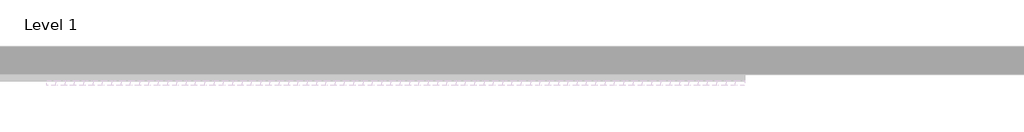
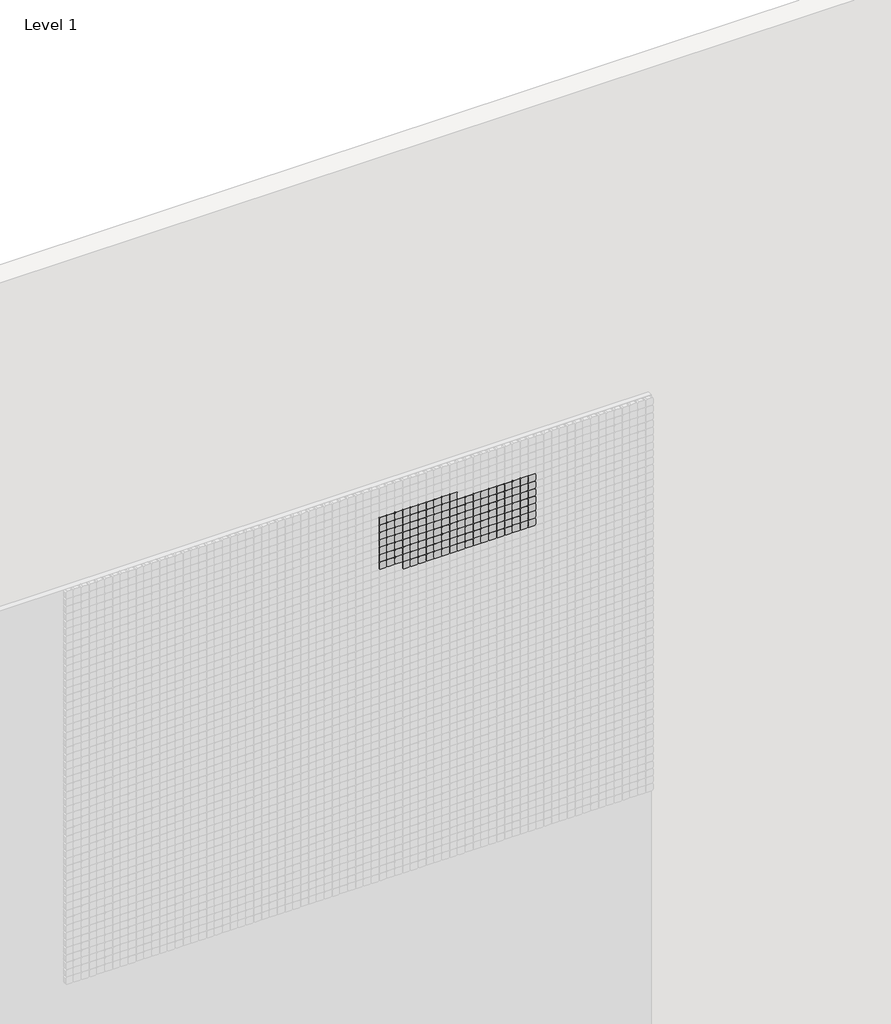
# One storey, part 49 of 71: 147 proxies.
"""IFC4 building model written with IfcOpenShell, lengths in millimetres."""

from ifc_helpers import new_model, si_unit, origin, place, context, project, spatial, transform, mapped, element, save
from components import generic_models_afde289c

model = new_model("IFC4")

# Units and contexts
model_context = context("Model", 3, world=origin())
ifc_project = project(units=[si_unit("LENGTHUNIT", "METRE", prefix="MILLI")], contexts=[model_context])

# Site, building, storey
site = spatial("IfcSite", under=ifc_project)
building = spatial("IfcBuilding", under=site)
storey = spatial("IfcBuildingStorey", under=building, Name="Level 1", Elevation=0.0)

# Proxies
placement = place(None, origin())
generic_models_shape = generic_models_afde289c(model_context)
element("IfcBuildingElementProxy", 1, Name="Pixel_M : Pixel_M", ObjectType="Pixel_M : Pixel_M", at=placement, inside=storey, context=model_context, shape_type="MappedRepresentation", body=[
    mapped(generic_models_shape, transform((8462.4280941, -75.0, 5766.3566215), x_axis=(1.0, 0.0, 0.0), y_axis=(0.0, 0.0, 1.0), z_axis=(0.0, -1.0, 0.0))),
])
element("IfcBuildingElementProxy", 2, Name="Pixel_M : Pixel_M", ObjectType="Pixel_M : Pixel_M", at=placement, inside=storey, context=model_context, shape_type="MappedRepresentation", body=[
    mapped(generic_models_shape, transform((8412.4280941, -75.0, 5766.3566215), x_axis=(1.0, 0.0, 0.0), y_axis=(0.0, 0.0, 1.0), z_axis=(0.0, -1.0, 0.0))),
])
element("IfcBuildingElementProxy", 3, Name="Pixel_M : Pixel_M", ObjectType="Pixel_M : Pixel_M", at=placement, inside=storey, context=model_context, shape_type="MappedRepresentation", body=[
    mapped(generic_models_shape, transform((8362.4280941, -75.0, 5766.3566215), x_axis=(1.0, 0.0, 0.0), y_axis=(0.0, 0.0, 1.0), z_axis=(0.0, -1.0, 0.0))),
])
element("IfcBuildingElementProxy", 4, Name="Pixel_M : Pixel_M", ObjectType="Pixel_M : Pixel_M", at=placement, inside=storey, context=model_context, shape_type="MappedRepresentation", body=[
    mapped(generic_models_shape, transform((8312.4280941, -75.0, 5766.3566215), x_axis=(1.0, 0.0, 0.0), y_axis=(0.0, 0.0, 1.0), z_axis=(0.0, -1.0, 0.0))),
])
element("IfcBuildingElementProxy", 5, Name="Pixel_M : Pixel_M", ObjectType="Pixel_M : Pixel_M", at=placement, inside=storey, context=model_context, shape_type="MappedRepresentation", body=[
    mapped(generic_models_shape, transform((8262.4280941, -75.0, 5766.3566215), x_axis=(1.0, 0.0, 0.0), y_axis=(0.0, 0.0, 1.0), z_axis=(0.0, -1.0, 0.0))),
])
element("IfcBuildingElementProxy", 6, Name="Pixel_M : Pixel_M", ObjectType="Pixel_M : Pixel_M", at=placement, inside=storey, context=model_context, shape_type="MappedRepresentation", body=[
    mapped(generic_models_shape, transform((8212.4280941, -75.0, 5766.3566215), x_axis=(1.0, 0.0, 0.0), y_axis=(0.0, 0.0, 1.0), z_axis=(0.0, -1.0, 0.0))),
])
element("IfcBuildingElementProxy", 7, Name="Pixel_M : Pixel_M", ObjectType="Pixel_M : Pixel_M", at=placement, inside=storey, context=model_context, shape_type="MappedRepresentation", body=[
    mapped(generic_models_shape, transform((8162.4280941, -75.0, 5766.3566215), x_axis=(1.0, 0.0, 0.0), y_axis=(0.0, 0.0, 1.0), z_axis=(0.0, -1.0, 0.0))),
])
element("IfcBuildingElementProxy", 8, Name="Pixel_M : Pixel_M", ObjectType="Pixel_M : Pixel_M", at=placement, inside=storey, context=model_context, shape_type="MappedRepresentation", body=[
    mapped(generic_models_shape, transform((8112.4280941, -75.0, 5766.3566215), x_axis=(1.0, 0.0, 0.0), y_axis=(0.0, 0.0, 1.0), z_axis=(0.0, -1.0, 0.0))),
])
element("IfcBuildingElementProxy", 9, Name="Pixel_M : Pixel_M", ObjectType="Pixel_M : Pixel_M", at=placement, inside=storey, context=model_context, shape_type="MappedRepresentation", body=[
    mapped(generic_models_shape, transform((8062.4280941, -75.0, 5766.3566215), x_axis=(1.0, 0.0, 0.0), y_axis=(0.0, 0.0, 1.0), z_axis=(0.0, -1.0, 0.0))),
])
element("IfcBuildingElementProxy", 10, Name="Pixel_M : Pixel_M", ObjectType="Pixel_M : Pixel_M", at=placement, inside=storey, context=model_context, shape_type="MappedRepresentation", body=[
    mapped(generic_models_shape, transform((8012.4280941, -75.0, 5766.3566215), x_axis=(1.0, 0.0, 0.0), y_axis=(0.0, 0.0, 1.0), z_axis=(0.0, -1.0, 0.0))),
])
element("IfcBuildingElementProxy", 11, Name="Pixel_M : Pixel_M", ObjectType="Pixel_M : Pixel_M", at=placement, inside=storey, context=model_context, shape_type="MappedRepresentation", body=[
    mapped(generic_models_shape, transform((8962.4280941, -75.0, 5716.3566215), x_axis=(1.0, 0.0, 0.0), y_axis=(0.0, 0.0, 1.0), z_axis=(0.0, -1.0, 0.0))),
])
element("IfcBuildingElementProxy", 12, Name="Pixel_M : Pixel_M", ObjectType="Pixel_M : Pixel_M", at=placement, inside=storey, context=model_context, shape_type="MappedRepresentation", body=[
    mapped(generic_models_shape, transform((8912.4280941, -75.0, 5716.3566215), x_axis=(1.0, 0.0, 0.0), y_axis=(0.0, 0.0, 1.0), z_axis=(0.0, -1.0, 0.0))),
])
element("IfcBuildingElementProxy", 13, Name="Pixel_M : Pixel_M", ObjectType="Pixel_M : Pixel_M", at=placement, inside=storey, context=model_context, shape_type="MappedRepresentation", body=[
    mapped(generic_models_shape, transform((8862.4280941, -75.0, 5716.3566215), x_axis=(1.0, 0.0, 0.0), y_axis=(0.0, 0.0, 1.0), z_axis=(0.0, -1.0, 0.0))),
])
element("IfcBuildingElementProxy", 14, Name="Pixel_M : Pixel_M", ObjectType="Pixel_M : Pixel_M", at=placement, inside=storey, context=model_context, shape_type="MappedRepresentation", body=[
    mapped(generic_models_shape, transform((8812.4280941, -75.0, 5716.3566215), x_axis=(1.0, 0.0, 0.0), y_axis=(0.0, 0.0, 1.0), z_axis=(0.0, -1.0, 0.0))),
])
element("IfcBuildingElementProxy", 15, Name="Pixel_M : Pixel_M", ObjectType="Pixel_M : Pixel_M", at=placement, inside=storey, context=model_context, shape_type="MappedRepresentation", body=[
    mapped(generic_models_shape, transform((8762.4280941, -75.0, 5716.3566215), x_axis=(1.0, 0.0, 0.0), y_axis=(0.0, 0.0, 1.0), z_axis=(0.0, -1.0, 0.0))),
])
element("IfcBuildingElementProxy", 16, Name="Pixel_M : Pixel_M", ObjectType="Pixel_M : Pixel_M", at=placement, inside=storey, context=model_context, shape_type="MappedRepresentation", body=[
    mapped(generic_models_shape, transform((8712.4280941, -75.0, 5716.3566215), x_axis=(1.0, 0.0, 0.0), y_axis=(0.0, 0.0, 1.0), z_axis=(0.0, -1.0, 0.0))),
])
element("IfcBuildingElementProxy", 17, Name="Pixel_M : Pixel_M", ObjectType="Pixel_M : Pixel_M", at=placement, inside=storey, context=model_context, shape_type="MappedRepresentation", body=[
    mapped(generic_models_shape, transform((8662.4280941, -75.0, 5716.3566215), x_axis=(1.0, 0.0, 0.0), y_axis=(0.0, 0.0, 1.0), z_axis=(0.0, -1.0, 0.0))),
])
element("IfcBuildingElementProxy", 18, Name="Pixel_M : Pixel_M", ObjectType="Pixel_M : Pixel_M", at=placement, inside=storey, context=model_context, shape_type="MappedRepresentation", body=[
    mapped(generic_models_shape, transform((8612.4280941, -75.0, 5716.3566215), x_axis=(1.0, 0.0, 0.0), y_axis=(0.0, 0.0, 1.0), z_axis=(0.0, -1.0, 0.0))),
])
element("IfcBuildingElementProxy", 19, Name="Pixel_M : Pixel_M", ObjectType="Pixel_M : Pixel_M", at=placement, inside=storey, context=model_context, shape_type="MappedRepresentation", body=[
    mapped(generic_models_shape, transform((8562.4280941, -75.0, 5716.3566215), x_axis=(1.0, 0.0, 0.0), y_axis=(0.0, 0.0, 1.0), z_axis=(0.0, -1.0, 0.0))),
])
element("IfcBuildingElementProxy", 20, Name="Pixel_M : Pixel_M", ObjectType="Pixel_M : Pixel_M", at=placement, inside=storey, context=model_context, shape_type="MappedRepresentation", body=[
    mapped(generic_models_shape, transform((8512.4280941, -75.0, 5716.3566215), x_axis=(1.0, 0.0, 0.0), y_axis=(0.0, 0.0, 1.0), z_axis=(0.0, -1.0, 0.0))),
])
element("IfcBuildingElementProxy", 21, Name="Pixel_M : Pixel_M", ObjectType="Pixel_M : Pixel_M", at=placement, inside=storey, context=model_context, shape_type="MappedRepresentation", body=[
    mapped(generic_models_shape, transform((8462.4280941, -75.0, 5716.3566215), x_axis=(1.0, 0.0, 0.0), y_axis=(0.0, 0.0, 1.0), z_axis=(0.0, -1.0, 0.0))),
])
element("IfcBuildingElementProxy", 22, Name="Pixel_M : Pixel_M", ObjectType="Pixel_M : Pixel_M", at=placement, inside=storey, context=model_context, shape_type="MappedRepresentation", body=[
    mapped(generic_models_shape, transform((8412.4280941, -75.0, 5716.3566215), x_axis=(1.0, 0.0, 0.0), y_axis=(0.0, 0.0, 1.0), z_axis=(0.0, -1.0, 0.0))),
])
element("IfcBuildingElementProxy", 23, Name="Pixel_M : Pixel_M", ObjectType="Pixel_M : Pixel_M", at=placement, inside=storey, context=model_context, shape_type="MappedRepresentation", body=[
    mapped(generic_models_shape, transform((8362.4280941, -75.0, 5716.3566215), x_axis=(1.0, 0.0, 0.0), y_axis=(0.0, 0.0, 1.0), z_axis=(0.0, -1.0, 0.0))),
])
element("IfcBuildingElementProxy", 24, Name="Pixel_M : Pixel_M", ObjectType="Pixel_M : Pixel_M", at=placement, inside=storey, context=model_context, shape_type="MappedRepresentation", body=[
    mapped(generic_models_shape, transform((8312.4280941, -75.0, 5716.3566215), x_axis=(1.0, 0.0, 0.0), y_axis=(0.0, 0.0, 1.0), z_axis=(0.0, -1.0, 0.0))),
])
element("IfcBuildingElementProxy", 25, Name="Pixel_M : Pixel_M", ObjectType="Pixel_M : Pixel_M", at=placement, inside=storey, context=model_context, shape_type="MappedRepresentation", body=[
    mapped(generic_models_shape, transform((8262.4280941, -75.0, 5716.3566215), x_axis=(1.0, 0.0, 0.0), y_axis=(0.0, 0.0, 1.0), z_axis=(0.0, -1.0, 0.0))),
])
element("IfcBuildingElementProxy", 26, Name="Pixel_M : Pixel_M", ObjectType="Pixel_M : Pixel_M", at=placement, inside=storey, context=model_context, shape_type="MappedRepresentation", body=[
    mapped(generic_models_shape, transform((8212.4280941, -75.0, 5716.3566215), x_axis=(1.0, 0.0, 0.0), y_axis=(0.0, 0.0, 1.0), z_axis=(0.0, -1.0, 0.0))),
])
element("IfcBuildingElementProxy", 27, Name="Pixel_M : Pixel_M", ObjectType="Pixel_M : Pixel_M", at=placement, inside=storey, context=model_context, shape_type="MappedRepresentation", body=[
    mapped(generic_models_shape, transform((8162.4280941, -75.0, 5716.3566215), x_axis=(1.0, 0.0, 0.0), y_axis=(0.0, 0.0, 1.0), z_axis=(0.0, -1.0, 0.0))),
])
element("IfcBuildingElementProxy", 28, Name="Pixel_M : Pixel_M", ObjectType="Pixel_M : Pixel_M", at=placement, inside=storey, context=model_context, shape_type="MappedRepresentation", body=[
    mapped(generic_models_shape, transform((8112.4280941, -75.0, 5716.3566215), x_axis=(1.0, 0.0, 0.0), y_axis=(0.0, 0.0, 1.0), z_axis=(0.0, -1.0, 0.0))),
])
element("IfcBuildingElementProxy", 29, Name="Pixel_M : Pixel_M", ObjectType="Pixel_M : Pixel_M", at=placement, inside=storey, context=model_context, shape_type="MappedRepresentation", body=[
    mapped(generic_models_shape, transform((8062.4280941, -75.0, 5716.3566215), x_axis=(1.0, 0.0, 0.0), y_axis=(0.0, 0.0, 1.0), z_axis=(0.0, -1.0, 0.0))),
])
element("IfcBuildingElementProxy", 30, Name="Pixel_M : Pixel_M", ObjectType="Pixel_M : Pixel_M", at=placement, inside=storey, context=model_context, shape_type="MappedRepresentation", body=[
    mapped(generic_models_shape, transform((8012.4280941, -75.0, 5716.3566215), x_axis=(1.0, 0.0, 0.0), y_axis=(0.0, 0.0, 1.0), z_axis=(0.0, -1.0, 0.0))),
])
element("IfcBuildingElementProxy", 31, Name="Pixel_M : Pixel_M", ObjectType="Pixel_M : Pixel_M", at=placement, inside=storey, context=model_context, shape_type="MappedRepresentation", body=[
    mapped(generic_models_shape, transform((8962.4280941, -75.0, 5666.3566215), x_axis=(1.0, 0.0, 0.0), y_axis=(0.0, 0.0, 1.0), z_axis=(0.0, -1.0, 0.0))),
])
element("IfcBuildingElementProxy", 32, Name="Pixel_M : Pixel_M", ObjectType="Pixel_M : Pixel_M", at=placement, inside=storey, context=model_context, shape_type="MappedRepresentation", body=[
    mapped(generic_models_shape, transform((8912.4280941, -75.0, 5666.3566215), x_axis=(1.0, 0.0, 0.0), y_axis=(0.0, 0.0, 1.0), z_axis=(0.0, -1.0, 0.0))),
])
element("IfcBuildingElementProxy", 33, Name="Pixel_M : Pixel_M", ObjectType="Pixel_M : Pixel_M", at=placement, inside=storey, context=model_context, shape_type="MappedRepresentation", body=[
    mapped(generic_models_shape, transform((8862.4280941, -75.0, 5666.3566215), x_axis=(1.0, 0.0, 0.0), y_axis=(0.0, 0.0, 1.0), z_axis=(0.0, -1.0, 0.0))),
])
element("IfcBuildingElementProxy", 34, Name="Pixel_M : Pixel_M", ObjectType="Pixel_M : Pixel_M", at=placement, inside=storey, context=model_context, shape_type="MappedRepresentation", body=[
    mapped(generic_models_shape, transform((8812.4280941, -75.0, 5666.3566215), x_axis=(1.0, 0.0, 0.0), y_axis=(0.0, 0.0, 1.0), z_axis=(0.0, -1.0, 0.0))),
])
element("IfcBuildingElementProxy", 35, Name="Pixel_M : Pixel_M", ObjectType="Pixel_M : Pixel_M", at=placement, inside=storey, context=model_context, shape_type="MappedRepresentation", body=[
    mapped(generic_models_shape, transform((8762.4280941, -75.0, 5666.3566215), x_axis=(1.0, 0.0, 0.0), y_axis=(0.0, 0.0, 1.0), z_axis=(0.0, -1.0, 0.0))),
])
element("IfcBuildingElementProxy", 36, Name="Pixel_M : Pixel_M", ObjectType="Pixel_M : Pixel_M", at=placement, inside=storey, context=model_context, shape_type="MappedRepresentation", body=[
    mapped(generic_models_shape, transform((8712.4280941, -75.0, 5666.3566215), x_axis=(1.0, 0.0, 0.0), y_axis=(0.0, 0.0, 1.0), z_axis=(0.0, -1.0, 0.0))),
])
element("IfcBuildingElementProxy", 37, Name="Pixel_M : Pixel_M", ObjectType="Pixel_M : Pixel_M", at=placement, inside=storey, context=model_context, shape_type="MappedRepresentation", body=[
    mapped(generic_models_shape, transform((8662.4280941, -75.0, 5666.3566215), x_axis=(1.0, 0.0, 0.0), y_axis=(0.0, 0.0, 1.0), z_axis=(0.0, -1.0, 0.0))),
])
element("IfcBuildingElementProxy", 38, Name="Pixel_M : Pixel_M", ObjectType="Pixel_M : Pixel_M", at=placement, inside=storey, context=model_context, shape_type="MappedRepresentation", body=[
    mapped(generic_models_shape, transform((8612.4280941, -75.0, 5666.3566215), x_axis=(1.0, 0.0, 0.0), y_axis=(0.0, 0.0, 1.0), z_axis=(0.0, -1.0, 0.0))),
])
element("IfcBuildingElementProxy", 39, Name="Pixel_M : Pixel_M", ObjectType="Pixel_M : Pixel_M", at=placement, inside=storey, context=model_context, shape_type="MappedRepresentation", body=[
    mapped(generic_models_shape, transform((8562.4280941, -75.0, 5666.3566215), x_axis=(1.0, 0.0, 0.0), y_axis=(0.0, 0.0, 1.0), z_axis=(0.0, -1.0, 0.0))),
])
element("IfcBuildingElementProxy", 40, Name="Pixel_M : Pixel_M", ObjectType="Pixel_M : Pixel_M", at=placement, inside=storey, context=model_context, shape_type="MappedRepresentation", body=[
    mapped(generic_models_shape, transform((8512.4280941, -75.0, 5666.3566215), x_axis=(1.0, 0.0, 0.0), y_axis=(0.0, 0.0, 1.0), z_axis=(0.0, -1.0, 0.0))),
])
element("IfcBuildingElementProxy", 41, Name="Pixel_M : Pixel_M", ObjectType="Pixel_M : Pixel_M", at=placement, inside=storey, context=model_context, shape_type="MappedRepresentation", body=[
    mapped(generic_models_shape, transform((8462.4280941, -75.0, 5666.3566215), x_axis=(1.0, 0.0, 0.0), y_axis=(0.0, 0.0, 1.0), z_axis=(0.0, -1.0, 0.0))),
])
element("IfcBuildingElementProxy", 42, Name="Pixel_M : Pixel_M", ObjectType="Pixel_M : Pixel_M", at=placement, inside=storey, context=model_context, shape_type="MappedRepresentation", body=[
    mapped(generic_models_shape, transform((8412.4280941, -75.0, 5666.3566215), x_axis=(1.0, 0.0, 0.0), y_axis=(0.0, 0.0, 1.0), z_axis=(0.0, -1.0, 0.0))),
])
element("IfcBuildingElementProxy", 43, Name="Pixel_M : Pixel_M", ObjectType="Pixel_M : Pixel_M", at=placement, inside=storey, context=model_context, shape_type="MappedRepresentation", body=[
    mapped(generic_models_shape, transform((8362.4280941, -75.0, 5666.3566215), x_axis=(1.0, 0.0, 0.0), y_axis=(0.0, 0.0, 1.0), z_axis=(0.0, -1.0, 0.0))),
])
element("IfcBuildingElementProxy", 44, Name="Pixel_M : Pixel_M", ObjectType="Pixel_M : Pixel_M", at=placement, inside=storey, context=model_context, shape_type="MappedRepresentation", body=[
    mapped(generic_models_shape, transform((8312.4280941, -75.0, 5666.3566215), x_axis=(1.0, 0.0, 0.0), y_axis=(0.0, 0.0, 1.0), z_axis=(0.0, -1.0, 0.0))),
])
element("IfcBuildingElementProxy", 45, Name="Pixel_M : Pixel_M", ObjectType="Pixel_M : Pixel_M", at=placement, inside=storey, context=model_context, shape_type="MappedRepresentation", body=[
    mapped(generic_models_shape, transform((8262.4280941, -75.0, 5666.3566215), x_axis=(1.0, 0.0, 0.0), y_axis=(0.0, 0.0, 1.0), z_axis=(0.0, -1.0, 0.0))),
])
element("IfcBuildingElementProxy", 46, Name="Pixel_M : Pixel_M", ObjectType="Pixel_M : Pixel_M", at=placement, inside=storey, context=model_context, shape_type="MappedRepresentation", body=[
    mapped(generic_models_shape, transform((8212.4280941, -75.0, 5666.3566215), x_axis=(1.0, 0.0, 0.0), y_axis=(0.0, 0.0, 1.0), z_axis=(0.0, -1.0, 0.0))),
])
element("IfcBuildingElementProxy", 47, Name="Pixel_M : Pixel_M", ObjectType="Pixel_M : Pixel_M", at=placement, inside=storey, context=model_context, shape_type="MappedRepresentation", body=[
    mapped(generic_models_shape, transform((8162.4280941, -75.0, 5666.3566215), x_axis=(1.0, 0.0, 0.0), y_axis=(0.0, 0.0, 1.0), z_axis=(0.0, -1.0, 0.0))),
])
element("IfcBuildingElementProxy", 48, Name="Pixel_M : Pixel_M", ObjectType="Pixel_M : Pixel_M", at=placement, inside=storey, context=model_context, shape_type="MappedRepresentation", body=[
    mapped(generic_models_shape, transform((8112.4280941, -75.0, 5666.3566215), x_axis=(1.0, 0.0, 0.0), y_axis=(0.0, 0.0, 1.0), z_axis=(0.0, -1.0, 0.0))),
])
element("IfcBuildingElementProxy", 49, Name="Pixel_M : Pixel_M", ObjectType="Pixel_M : Pixel_M", at=placement, inside=storey, context=model_context, shape_type="MappedRepresentation", body=[
    mapped(generic_models_shape, transform((8062.4280941, -75.0, 5666.3566215), x_axis=(1.0, 0.0, 0.0), y_axis=(0.0, 0.0, 1.0), z_axis=(0.0, -1.0, 0.0))),
])
element("IfcBuildingElementProxy", 50, Name="Pixel_M : Pixel_M", ObjectType="Pixel_M : Pixel_M", at=placement, inside=storey, context=model_context, shape_type="MappedRepresentation", body=[
    mapped(generic_models_shape, transform((8012.4280941, -75.0, 5666.3566215), x_axis=(1.0, 0.0, 0.0), y_axis=(0.0, 0.0, 1.0), z_axis=(0.0, -1.0, 0.0))),
])
element("IfcBuildingElementProxy", 51, Name="Pixel_M : Pixel_M", ObjectType="Pixel_M : Pixel_M", at=placement, inside=storey, context=model_context, shape_type="MappedRepresentation", body=[
    mapped(generic_models_shape, transform((8962.4280941, -75.0, 5616.3566215), x_axis=(1.0, 0.0, 0.0), y_axis=(0.0, 0.0, 1.0), z_axis=(0.0, -1.0, 0.0))),
])
element("IfcBuildingElementProxy", 52, Name="Pixel_M : Pixel_M", ObjectType="Pixel_M : Pixel_M", at=placement, inside=storey, context=model_context, shape_type="MappedRepresentation", body=[
    mapped(generic_models_shape, transform((8912.4280941, -75.0, 5616.3566215), x_axis=(1.0, 0.0, 0.0), y_axis=(0.0, 0.0, 1.0), z_axis=(0.0, -1.0, 0.0))),
])
element("IfcBuildingElementProxy", 53, Name="Pixel_M : Pixel_M", ObjectType="Pixel_M : Pixel_M", at=placement, inside=storey, context=model_context, shape_type="MappedRepresentation", body=[
    mapped(generic_models_shape, transform((8862.4280941, -75.0, 5616.3566215), x_axis=(1.0, 0.0, 0.0), y_axis=(0.0, 0.0, 1.0), z_axis=(0.0, -1.0, 0.0))),
])
element("IfcBuildingElementProxy", 54, Name="Pixel_M : Pixel_M", ObjectType="Pixel_M : Pixel_M", at=placement, inside=storey, context=model_context, shape_type="MappedRepresentation", body=[
    mapped(generic_models_shape, transform((8812.4280941, -75.0, 5616.3566215), x_axis=(1.0, 0.0, 0.0), y_axis=(0.0, 0.0, 1.0), z_axis=(0.0, -1.0, 0.0))),
])
element("IfcBuildingElementProxy", 55, Name="Pixel_M : Pixel_M", ObjectType="Pixel_M : Pixel_M", at=placement, inside=storey, context=model_context, shape_type="MappedRepresentation", body=[
    mapped(generic_models_shape, transform((8762.4280941, -75.0, 5616.3566215), x_axis=(1.0, 0.0, 0.0), y_axis=(0.0, 0.0, 1.0), z_axis=(0.0, -1.0, 0.0))),
])
element("IfcBuildingElementProxy", 56, Name="Pixel_M : Pixel_M", ObjectType="Pixel_M : Pixel_M", at=placement, inside=storey, context=model_context, shape_type="MappedRepresentation", body=[
    mapped(generic_models_shape, transform((8712.4280941, -75.0, 5616.3566215), x_axis=(1.0, 0.0, 0.0), y_axis=(0.0, 0.0, 1.0), z_axis=(0.0, -1.0, 0.0))),
])
element("IfcBuildingElementProxy", 57, Name="Pixel_M : Pixel_M", ObjectType="Pixel_M : Pixel_M", at=placement, inside=storey, context=model_context, shape_type="MappedRepresentation", body=[
    mapped(generic_models_shape, transform((8662.4280941, -75.0, 5616.3566215), x_axis=(1.0, 0.0, 0.0), y_axis=(0.0, 0.0, 1.0), z_axis=(0.0, -1.0, 0.0))),
])
element("IfcBuildingElementProxy", 58, Name="Pixel_M : Pixel_M", ObjectType="Pixel_M : Pixel_M", at=placement, inside=storey, context=model_context, shape_type="MappedRepresentation", body=[
    mapped(generic_models_shape, transform((8612.4280941, -75.0, 5616.3566215), x_axis=(1.0, 0.0, 0.0), y_axis=(0.0, 0.0, 1.0), z_axis=(0.0, -1.0, 0.0))),
])
element("IfcBuildingElementProxy", 59, Name="Pixel_M : Pixel_M", ObjectType="Pixel_M : Pixel_M", at=placement, inside=storey, context=model_context, shape_type="MappedRepresentation", body=[
    mapped(generic_models_shape, transform((8562.4280941, -75.0, 5616.3566215), x_axis=(1.0, 0.0, 0.0), y_axis=(0.0, 0.0, 1.0), z_axis=(0.0, -1.0, 0.0))),
])
element("IfcBuildingElementProxy", 60, Name="Pixel_M : Pixel_M", ObjectType="Pixel_M : Pixel_M", at=placement, inside=storey, context=model_context, shape_type="MappedRepresentation", body=[
    mapped(generic_models_shape, transform((8512.4280941, -75.0, 5616.3566215), x_axis=(1.0, 0.0, 0.0), y_axis=(0.0, 0.0, 1.0), z_axis=(0.0, -1.0, 0.0))),
])
element("IfcBuildingElementProxy", 61, Name="Pixel_M : Pixel_M", ObjectType="Pixel_M : Pixel_M", at=placement, inside=storey, context=model_context, shape_type="MappedRepresentation", body=[
    mapped(generic_models_shape, transform((8462.4280941, -75.0, 5616.3566215), x_axis=(1.0, 0.0, 0.0), y_axis=(0.0, 0.0, 1.0), z_axis=(0.0, -1.0, 0.0))),
])
element("IfcBuildingElementProxy", 62, Name="Pixel_M : Pixel_M", ObjectType="Pixel_M : Pixel_M", at=placement, inside=storey, context=model_context, shape_type="MappedRepresentation", body=[
    mapped(generic_models_shape, transform((8412.4280941, -75.0, 5616.3566215), x_axis=(1.0, 0.0, 0.0), y_axis=(0.0, 0.0, 1.0), z_axis=(0.0, -1.0, 0.0))),
])
element("IfcBuildingElementProxy", 63, Name="Pixel_M : Pixel_M", ObjectType="Pixel_M : Pixel_M", at=placement, inside=storey, context=model_context, shape_type="MappedRepresentation", body=[
    mapped(generic_models_shape, transform((8362.4280941, -75.0, 5616.3566215), x_axis=(1.0, 0.0, 0.0), y_axis=(0.0, 0.0, 1.0), z_axis=(0.0, -1.0, 0.0))),
])
element("IfcBuildingElementProxy", 64, Name="Pixel_M : Pixel_M", ObjectType="Pixel_M : Pixel_M", at=placement, inside=storey, context=model_context, shape_type="MappedRepresentation", body=[
    mapped(generic_models_shape, transform((8312.4280941, -75.0, 5616.3566215), x_axis=(1.0, 0.0, 0.0), y_axis=(0.0, 0.0, 1.0), z_axis=(0.0, -1.0, 0.0))),
])
element("IfcBuildingElementProxy", 65, Name="Pixel_M : Pixel_M", ObjectType="Pixel_M : Pixel_M", at=placement, inside=storey, context=model_context, shape_type="MappedRepresentation", body=[
    mapped(generic_models_shape, transform((8262.4280941, -75.0, 5616.3566215), x_axis=(1.0, 0.0, 0.0), y_axis=(0.0, 0.0, 1.0), z_axis=(0.0, -1.0, 0.0))),
])
element("IfcBuildingElementProxy", 66, Name="Pixel_M : Pixel_M", ObjectType="Pixel_M : Pixel_M", at=placement, inside=storey, context=model_context, shape_type="MappedRepresentation", body=[
    mapped(generic_models_shape, transform((8212.4280941, -75.0, 5616.3566215), x_axis=(1.0, 0.0, 0.0), y_axis=(0.0, 0.0, 1.0), z_axis=(0.0, -1.0, 0.0))),
])
element("IfcBuildingElementProxy", 67, Name="Pixel_M : Pixel_M", ObjectType="Pixel_M : Pixel_M", at=placement, inside=storey, context=model_context, shape_type="MappedRepresentation", body=[
    mapped(generic_models_shape, transform((8162.4280941, -75.0, 5616.3566215), x_axis=(1.0, 0.0, 0.0), y_axis=(0.0, 0.0, 1.0), z_axis=(0.0, -1.0, 0.0))),
])
element("IfcBuildingElementProxy", 68, Name="Pixel_M : Pixel_M", ObjectType="Pixel_M : Pixel_M", at=placement, inside=storey, context=model_context, shape_type="MappedRepresentation", body=[
    mapped(generic_models_shape, transform((8112.4280941, -75.0, 5616.3566215), x_axis=(1.0, 0.0, 0.0), y_axis=(0.0, 0.0, 1.0), z_axis=(0.0, -1.0, 0.0))),
])
element("IfcBuildingElementProxy", 69, Name="Pixel_M : Pixel_M", ObjectType="Pixel_M : Pixel_M", at=placement, inside=storey, context=model_context, shape_type="MappedRepresentation", body=[
    mapped(generic_models_shape, transform((8062.4280941, -75.0, 5616.3566215), x_axis=(1.0, 0.0, 0.0), y_axis=(0.0, 0.0, 1.0), z_axis=(0.0, -1.0, 0.0))),
])
element("IfcBuildingElementProxy", 70, Name="Pixel_M : Pixel_M", ObjectType="Pixel_M : Pixel_M", at=placement, inside=storey, context=model_context, shape_type="MappedRepresentation", body=[
    mapped(generic_models_shape, transform((8012.4280941, -75.0, 5616.3566215), x_axis=(1.0, 0.0, 0.0), y_axis=(0.0, 0.0, 1.0), z_axis=(0.0, -1.0, 0.0))),
])
element("IfcBuildingElementProxy", 71, Name="Pixel_M : Pixel_M", ObjectType="Pixel_M : Pixel_M", at=placement, inside=storey, context=model_context, shape_type="MappedRepresentation", body=[
    mapped(generic_models_shape, transform((8962.4280941, -75.0, 5566.3566215), x_axis=(1.0, 0.0, 0.0), y_axis=(0.0, 0.0, 1.0), z_axis=(0.0, -1.0, 0.0))),
])
element("IfcBuildingElementProxy", 72, Name="Pixel_M : Pixel_M", ObjectType="Pixel_M : Pixel_M", at=placement, inside=storey, context=model_context, shape_type="MappedRepresentation", body=[
    mapped(generic_models_shape, transform((8912.4280941, -75.0, 5566.3566215), x_axis=(1.0, 0.0, 0.0), y_axis=(0.0, 0.0, 1.0), z_axis=(0.0, -1.0, 0.0))),
])
element("IfcBuildingElementProxy", 73, Name="Pixel_M : Pixel_M", ObjectType="Pixel_M : Pixel_M", at=placement, inside=storey, context=model_context, shape_type="MappedRepresentation", body=[
    mapped(generic_models_shape, transform((8862.4280941, -75.0, 5566.3566215), x_axis=(1.0, 0.0, 0.0), y_axis=(0.0, 0.0, 1.0), z_axis=(0.0, -1.0, 0.0))),
])
element("IfcBuildingElementProxy", 74, Name="Pixel_M : Pixel_M", ObjectType="Pixel_M : Pixel_M", at=placement, inside=storey, context=model_context, shape_type="MappedRepresentation", body=[
    mapped(generic_models_shape, transform((8812.4280941, -75.0, 5566.3566215), x_axis=(1.0, 0.0, 0.0), y_axis=(0.0, 0.0, 1.0), z_axis=(0.0, -1.0, 0.0))),
])
element("IfcBuildingElementProxy", 75, Name="Pixel_M : Pixel_M", ObjectType="Pixel_M : Pixel_M", at=placement, inside=storey, context=model_context, shape_type="MappedRepresentation", body=[
    mapped(generic_models_shape, transform((8762.4280941, -75.0, 5566.3566215), x_axis=(1.0, 0.0, 0.0), y_axis=(0.0, 0.0, 1.0), z_axis=(0.0, -1.0, 0.0))),
])
element("IfcBuildingElementProxy", 76, Name="Pixel_M : Pixel_M", ObjectType="Pixel_M : Pixel_M", at=placement, inside=storey, context=model_context, shape_type="MappedRepresentation", body=[
    mapped(generic_models_shape, transform((8712.4280941, -75.0, 5566.3566215), x_axis=(1.0, 0.0, 0.0), y_axis=(0.0, 0.0, 1.0), z_axis=(0.0, -1.0, 0.0))),
])
element("IfcBuildingElementProxy", 77, Name="Pixel_M : Pixel_M", ObjectType="Pixel_M : Pixel_M", at=placement, inside=storey, context=model_context, shape_type="MappedRepresentation", body=[
    mapped(generic_models_shape, transform((8662.4280941, -75.0, 5566.3566215), x_axis=(1.0, 0.0, 0.0), y_axis=(0.0, 0.0, 1.0), z_axis=(0.0, -1.0, 0.0))),
])
element("IfcBuildingElementProxy", 78, Name="Pixel_M : Pixel_M", ObjectType="Pixel_M : Pixel_M", at=placement, inside=storey, context=model_context, shape_type="MappedRepresentation", body=[
    mapped(generic_models_shape, transform((8612.4280941, -75.0, 5566.3566215), x_axis=(1.0, 0.0, 0.0), y_axis=(0.0, 0.0, 1.0), z_axis=(0.0, -1.0, 0.0))),
])
element("IfcBuildingElementProxy", 79, Name="Pixel_M : Pixel_M", ObjectType="Pixel_M : Pixel_M", at=placement, inside=storey, context=model_context, shape_type="MappedRepresentation", body=[
    mapped(generic_models_shape, transform((8562.4280941, -75.0, 5566.3566215), x_axis=(1.0, 0.0, 0.0), y_axis=(0.0, 0.0, 1.0), z_axis=(0.0, -1.0, 0.0))),
])
element("IfcBuildingElementProxy", 80, Name="Pixel_M : Pixel_M", ObjectType="Pixel_M : Pixel_M", at=placement, inside=storey, context=model_context, shape_type="MappedRepresentation", body=[
    mapped(generic_models_shape, transform((8512.4280941, -75.0, 5566.3566215), x_axis=(1.0, 0.0, 0.0), y_axis=(0.0, 0.0, 1.0), z_axis=(0.0, -1.0, 0.0))),
])
element("IfcBuildingElementProxy", 81, Name="Pixel_M : Pixel_M", ObjectType="Pixel_M : Pixel_M", at=placement, inside=storey, context=model_context, shape_type="MappedRepresentation", body=[
    mapped(generic_models_shape, transform((8462.4280941, -75.0, 5566.3566215), x_axis=(1.0, 0.0, 0.0), y_axis=(0.0, 0.0, 1.0), z_axis=(0.0, -1.0, 0.0))),
])
element("IfcBuildingElementProxy", 82, Name="Pixel_M : Pixel_M", ObjectType="Pixel_M : Pixel_M", at=placement, inside=storey, context=model_context, shape_type="MappedRepresentation", body=[
    mapped(generic_models_shape, transform((8412.4280941, -75.0, 5566.3566215), x_axis=(1.0, 0.0, 0.0), y_axis=(0.0, 0.0, 1.0), z_axis=(0.0, -1.0, 0.0))),
])
element("IfcBuildingElementProxy", 83, Name="Pixel_M : Pixel_M", ObjectType="Pixel_M : Pixel_M", at=placement, inside=storey, context=model_context, shape_type="MappedRepresentation", body=[
    mapped(generic_models_shape, transform((8362.4280941, -75.0, 5566.3566215), x_axis=(1.0, 0.0, 0.0), y_axis=(0.0, 0.0, 1.0), z_axis=(0.0, -1.0, 0.0))),
])
element("IfcBuildingElementProxy", 84, Name="Pixel_M : Pixel_M", ObjectType="Pixel_M : Pixel_M", at=placement, inside=storey, context=model_context, shape_type="MappedRepresentation", body=[
    mapped(generic_models_shape, transform((8312.4280941, -75.0, 5566.3566215), x_axis=(1.0, 0.0, 0.0), y_axis=(0.0, 0.0, 1.0), z_axis=(0.0, -1.0, 0.0))),
])
element("IfcBuildingElementProxy", 85, Name="Pixel_M : Pixel_M", ObjectType="Pixel_M : Pixel_M", at=placement, inside=storey, context=model_context, shape_type="MappedRepresentation", body=[
    mapped(generic_models_shape, transform((8262.4280941, -75.0, 5566.3566215), x_axis=(1.0, 0.0, 0.0), y_axis=(0.0, 0.0, 1.0), z_axis=(0.0, -1.0, 0.0))),
])
element("IfcBuildingElementProxy", 86, Name="Pixel_M : Pixel_M", ObjectType="Pixel_M : Pixel_M", at=placement, inside=storey, context=model_context, shape_type="MappedRepresentation", body=[
    mapped(generic_models_shape, transform((8212.4280941, -75.0, 5566.3566215), x_axis=(1.0, 0.0, 0.0), y_axis=(0.0, 0.0, 1.0), z_axis=(0.0, -1.0, 0.0))),
])
element("IfcBuildingElementProxy", 87, Name="Pixel_M : Pixel_M", ObjectType="Pixel_M : Pixel_M", at=placement, inside=storey, context=model_context, shape_type="MappedRepresentation", body=[
    mapped(generic_models_shape, transform((8162.4280941, -75.0, 5566.3566215), x_axis=(1.0, 0.0, 0.0), y_axis=(0.0, 0.0, 1.0), z_axis=(0.0, -1.0, 0.0))),
])
element("IfcBuildingElementProxy", 88, Name="Pixel_M : Pixel_M", ObjectType="Pixel_M : Pixel_M", at=placement, inside=storey, context=model_context, shape_type="MappedRepresentation", body=[
    mapped(generic_models_shape, transform((8112.4280941, -75.0, 5566.3566215), x_axis=(1.0, 0.0, 0.0), y_axis=(0.0, 0.0, 1.0), z_axis=(0.0, -1.0, 0.0))),
])
element("IfcBuildingElementProxy", 89, Name="Pixel_M : Pixel_M", ObjectType="Pixel_M : Pixel_M", at=placement, inside=storey, context=model_context, shape_type="MappedRepresentation", body=[
    mapped(generic_models_shape, transform((8062.4280941, -75.0, 5566.3566215), x_axis=(1.0, 0.0, 0.0), y_axis=(0.0, 0.0, 1.0), z_axis=(0.0, -1.0, 0.0))),
])
element("IfcBuildingElementProxy", 90, Name="Pixel_M : Pixel_M", ObjectType="Pixel_M : Pixel_M", at=placement, inside=storey, context=model_context, shape_type="MappedRepresentation", body=[
    mapped(generic_models_shape, transform((8012.4280941, -75.0, 5566.3566215), x_axis=(1.0, 0.0, 0.0), y_axis=(0.0, 0.0, 1.0), z_axis=(0.0, -1.0, 0.0))),
])
element("IfcBuildingElementProxy", 91, Name="Pixel_M : Pixel_M", ObjectType="Pixel_M : Pixel_M", at=placement, inside=storey, context=model_context, shape_type="MappedRepresentation", body=[
    mapped(generic_models_shape, transform((8962.4280941, -75.0, 5516.3566215), x_axis=(1.0, 0.0, 0.0), y_axis=(0.0, 0.0, 1.0), z_axis=(0.0, -1.0, 0.0))),
])
element("IfcBuildingElementProxy", 92, Name="Pixel_M : Pixel_M", ObjectType="Pixel_M : Pixel_M", at=placement, inside=storey, context=model_context, shape_type="MappedRepresentation", body=[
    mapped(generic_models_shape, transform((8912.4280941, -75.0, 5516.3566215), x_axis=(1.0, 0.0, 0.0), y_axis=(0.0, 0.0, 1.0), z_axis=(0.0, -1.0, 0.0))),
])
element("IfcBuildingElementProxy", 93, Name="Pixel_M : Pixel_M", ObjectType="Pixel_M : Pixel_M", at=placement, inside=storey, context=model_context, shape_type="MappedRepresentation", body=[
    mapped(generic_models_shape, transform((8862.4280941, -75.0, 5516.3566215), x_axis=(1.0, 0.0, 0.0), y_axis=(0.0, 0.0, 1.0), z_axis=(0.0, -1.0, 0.0))),
])
element("IfcBuildingElementProxy", 94, Name="Pixel_M : Pixel_M", ObjectType="Pixel_M : Pixel_M", at=placement, inside=storey, context=model_context, shape_type="MappedRepresentation", body=[
    mapped(generic_models_shape, transform((8812.4280941, -75.0, 5516.3566215), x_axis=(1.0, 0.0, 0.0), y_axis=(0.0, 0.0, 1.0), z_axis=(0.0, -1.0, 0.0))),
])
element("IfcBuildingElementProxy", 95, Name="Pixel_M : Pixel_M", ObjectType="Pixel_M : Pixel_M", at=placement, inside=storey, context=model_context, shape_type="MappedRepresentation", body=[
    mapped(generic_models_shape, transform((8762.4280941, -75.0, 5516.3566215), x_axis=(1.0, 0.0, 0.0), y_axis=(0.0, 0.0, 1.0), z_axis=(0.0, -1.0, 0.0))),
])
element("IfcBuildingElementProxy", 96, Name="Pixel_M : Pixel_M", ObjectType="Pixel_M : Pixel_M", at=placement, inside=storey, context=model_context, shape_type="MappedRepresentation", body=[
    mapped(generic_models_shape, transform((8712.4280941, -75.0, 5516.3566215), x_axis=(1.0, 0.0, 0.0), y_axis=(0.0, 0.0, 1.0), z_axis=(0.0, -1.0, 0.0))),
])
element("IfcBuildingElementProxy", 97, Name="Pixel_M : Pixel_M", ObjectType="Pixel_M : Pixel_M", at=placement, inside=storey, context=model_context, shape_type="MappedRepresentation", body=[
    mapped(generic_models_shape, transform((8662.4280941, -75.0, 5516.3566215), x_axis=(1.0, 0.0, 0.0), y_axis=(0.0, 0.0, 1.0), z_axis=(0.0, -1.0, 0.0))),
])
element("IfcBuildingElementProxy", 98, Name="Pixel_M : Pixel_M", ObjectType="Pixel_M : Pixel_M", at=placement, inside=storey, context=model_context, shape_type="MappedRepresentation", body=[
    mapped(generic_models_shape, transform((8612.4280941, -75.0, 5516.3566215), x_axis=(1.0, 0.0, 0.0), y_axis=(0.0, 0.0, 1.0), z_axis=(0.0, -1.0, 0.0))),
])
element("IfcBuildingElementProxy", 99, Name="Pixel_M : Pixel_M", ObjectType="Pixel_M : Pixel_M", at=placement, inside=storey, context=model_context, shape_type="MappedRepresentation", body=[
    mapped(generic_models_shape, transform((8562.4280941, -75.0, 5516.3566215), x_axis=(1.0, 0.0, 0.0), y_axis=(0.0, 0.0, 1.0), z_axis=(0.0, -1.0, 0.0))),
])
element("IfcBuildingElementProxy", 100, Name="Pixel_M : Pixel_M", ObjectType="Pixel_M : Pixel_M", at=placement, inside=storey, context=model_context, shape_type="MappedRepresentation", body=[
    mapped(generic_models_shape, transform((8512.4280941, -75.0, 5516.3566215), x_axis=(1.0, 0.0, 0.0), y_axis=(0.0, 0.0, 1.0), z_axis=(0.0, -1.0, 0.0))),
])
element("IfcBuildingElementProxy", 101, Name="Pixel_M : Pixel_M", ObjectType="Pixel_M : Pixel_M", at=placement, inside=storey, context=model_context, shape_type="MappedRepresentation", body=[
    mapped(generic_models_shape, transform((8462.4280941, -75.0, 5516.3566215), x_axis=(1.0, 0.0, 0.0), y_axis=(0.0, 0.0, 1.0), z_axis=(0.0, -1.0, 0.0))),
])
element("IfcBuildingElementProxy", 102, Name="Pixel_M : Pixel_M", ObjectType="Pixel_M : Pixel_M", at=placement, inside=storey, context=model_context, shape_type="MappedRepresentation", body=[
    mapped(generic_models_shape, transform((8412.4280941, -75.0, 5516.3566215), x_axis=(1.0, 0.0, 0.0), y_axis=(0.0, 0.0, 1.0), z_axis=(0.0, -1.0, 0.0))),
])
element("IfcBuildingElementProxy", 103, Name="Pixel_M : Pixel_M", ObjectType="Pixel_M : Pixel_M", at=placement, inside=storey, context=model_context, shape_type="MappedRepresentation", body=[
    mapped(generic_models_shape, transform((8362.4280941, -75.0, 5516.3566215), x_axis=(1.0, 0.0, 0.0), y_axis=(0.0, 0.0, 1.0), z_axis=(0.0, -1.0, 0.0))),
])
element("IfcBuildingElementProxy", 104, Name="Pixel_M : Pixel_M", ObjectType="Pixel_M : Pixel_M", at=placement, inside=storey, context=model_context, shape_type="MappedRepresentation", body=[
    mapped(generic_models_shape, transform((8312.4280941, -75.0, 5516.3566215), x_axis=(1.0, 0.0, 0.0), y_axis=(0.0, 0.0, 1.0), z_axis=(0.0, -1.0, 0.0))),
])
element("IfcBuildingElementProxy", 105, Name="Pixel_M : Pixel_M", ObjectType="Pixel_M : Pixel_M", at=placement, inside=storey, context=model_context, shape_type="MappedRepresentation", body=[
    mapped(generic_models_shape, transform((8262.4280941, -75.0, 5516.3566215), x_axis=(1.0, 0.0, 0.0), y_axis=(0.0, 0.0, 1.0), z_axis=(0.0, -1.0, 0.0))),
])
element("IfcBuildingElementProxy", 106, Name="Pixel_M : Pixel_M", ObjectType="Pixel_M : Pixel_M", at=placement, inside=storey, context=model_context, shape_type="MappedRepresentation", body=[
    mapped(generic_models_shape, transform((8212.4280941, -75.0, 5516.3566215), x_axis=(1.0, 0.0, 0.0), y_axis=(0.0, 0.0, 1.0), z_axis=(0.0, -1.0, 0.0))),
])
element("IfcBuildingElementProxy", 107, Name="Pixel_M : Pixel_M", ObjectType="Pixel_M : Pixel_M", at=placement, inside=storey, context=model_context, shape_type="MappedRepresentation", body=[
    mapped(generic_models_shape, transform((8162.4280941, -75.0, 5516.3566215), x_axis=(1.0, 0.0, 0.0), y_axis=(0.0, 0.0, 1.0), z_axis=(0.0, -1.0, 0.0))),
])
element("IfcBuildingElementProxy", 108, Name="Pixel_M : Pixel_M", ObjectType="Pixel_M : Pixel_M", at=placement, inside=storey, context=model_context, shape_type="MappedRepresentation", body=[
    mapped(generic_models_shape, transform((8112.4280941, -75.0, 5516.3566215), x_axis=(1.0, 0.0, 0.0), y_axis=(0.0, 0.0, 1.0), z_axis=(0.0, -1.0, 0.0))),
])
element("IfcBuildingElementProxy", 109, Name="Pixel_M : Pixel_M", ObjectType="Pixel_M : Pixel_M", at=placement, inside=storey, context=model_context, shape_type="MappedRepresentation", body=[
    mapped(generic_models_shape, transform((8062.4280941, -75.0, 5516.3566215), x_axis=(1.0, 0.0, 0.0), y_axis=(0.0, 0.0, 1.0), z_axis=(0.0, -1.0, 0.0))),
])
element("IfcBuildingElementProxy", 110, Name="Pixel_M : Pixel_M", ObjectType="Pixel_M : Pixel_M", at=placement, inside=storey, context=model_context, shape_type="MappedRepresentation", body=[
    mapped(generic_models_shape, transform((8012.4280941, -75.0, 5516.3566215), x_axis=(1.0, 0.0, 0.0), y_axis=(0.0, 0.0, 1.0), z_axis=(0.0, -1.0, 0.0))),
])
element("IfcBuildingElementProxy", 111, Name="Pixel_M : Pixel_M", ObjectType="Pixel_M : Pixel_M", at=placement, inside=storey, context=model_context, shape_type="MappedRepresentation", body=[
    mapped(generic_models_shape, transform((8962.4280941, -75.0, 5466.3566215), x_axis=(1.0, 0.0, 0.0), y_axis=(0.0, 0.0, 1.0), z_axis=(0.0, -1.0, 0.0))),
])
element("IfcBuildingElementProxy", 112, Name="Pixel_M : Pixel_M", ObjectType="Pixel_M : Pixel_M", at=placement, inside=storey, context=model_context, shape_type="MappedRepresentation", body=[
    mapped(generic_models_shape, transform((8912.4280941, -75.0, 5466.3566215), x_axis=(1.0, 0.0, 0.0), y_axis=(0.0, 0.0, 1.0), z_axis=(0.0, -1.0, 0.0))),
])
element("IfcBuildingElementProxy", 113, Name="Pixel_M : Pixel_M", ObjectType="Pixel_M : Pixel_M", at=placement, inside=storey, context=model_context, shape_type="MappedRepresentation", body=[
    mapped(generic_models_shape, transform((8862.4280941, -75.0, 5466.3566215), x_axis=(1.0, 0.0, 0.0), y_axis=(0.0, 0.0, 1.0), z_axis=(0.0, -1.0, 0.0))),
])
element("IfcBuildingElementProxy", 114, Name="Pixel_M : Pixel_M", ObjectType="Pixel_M : Pixel_M", at=placement, inside=storey, context=model_context, shape_type="MappedRepresentation", body=[
    mapped(generic_models_shape, transform((8812.4280941, -75.0, 5466.3566215), x_axis=(1.0, 0.0, 0.0), y_axis=(0.0, 0.0, 1.0), z_axis=(0.0, -1.0, 0.0))),
])
element("IfcBuildingElementProxy", 115, Name="Pixel_M : Pixel_M", ObjectType="Pixel_M : Pixel_M", at=placement, inside=storey, context=model_context, shape_type="MappedRepresentation", body=[
    mapped(generic_models_shape, transform((8762.4280941, -75.0, 5466.3566215), x_axis=(1.0, 0.0, 0.0), y_axis=(0.0, 0.0, 1.0), z_axis=(0.0, -1.0, 0.0))),
])
element("IfcBuildingElementProxy", 116, Name="Pixel_M : Pixel_M", ObjectType="Pixel_M : Pixel_M", at=placement, inside=storey, context=model_context, shape_type="MappedRepresentation", body=[
    mapped(generic_models_shape, transform((8712.4280941, -75.0, 5466.3566215), x_axis=(1.0, 0.0, 0.0), y_axis=(0.0, 0.0, 1.0), z_axis=(0.0, -1.0, 0.0))),
])
element("IfcBuildingElementProxy", 117, Name="Pixel_M : Pixel_M", ObjectType="Pixel_M : Pixel_M", at=placement, inside=storey, context=model_context, shape_type="MappedRepresentation", body=[
    mapped(generic_models_shape, transform((8662.4280941, -75.0, 5466.3566215), x_axis=(1.0, 0.0, 0.0), y_axis=(0.0, 0.0, 1.0), z_axis=(0.0, -1.0, 0.0))),
])
element("IfcBuildingElementProxy", 118, Name="Pixel_M : Pixel_M", ObjectType="Pixel_M : Pixel_M", at=placement, inside=storey, context=model_context, shape_type="MappedRepresentation", body=[
    mapped(generic_models_shape, transform((8612.4280941, -75.0, 5466.3566215), x_axis=(1.0, 0.0, 0.0), y_axis=(0.0, 0.0, 1.0), z_axis=(0.0, -1.0, 0.0))),
])
element("IfcBuildingElementProxy", 119, Name="Pixel_M : Pixel_M", ObjectType="Pixel_M : Pixel_M", at=placement, inside=storey, context=model_context, shape_type="MappedRepresentation", body=[
    mapped(generic_models_shape, transform((8562.4280941, -75.0, 5466.3566215), x_axis=(1.0, 0.0, 0.0), y_axis=(0.0, 0.0, 1.0), z_axis=(0.0, -1.0, 0.0))),
])
element("IfcBuildingElementProxy", 120, Name="Pixel_M : Pixel_M", ObjectType="Pixel_M : Pixel_M", at=placement, inside=storey, context=model_context, shape_type="MappedRepresentation", body=[
    mapped(generic_models_shape, transform((8512.4280941, -75.0, 5466.3566215), x_axis=(1.0, 0.0, 0.0), y_axis=(0.0, 0.0, 1.0), z_axis=(0.0, -1.0, 0.0))),
])
element("IfcBuildingElementProxy", 121, Name="Pixel_M : Pixel_M", ObjectType="Pixel_M : Pixel_M", at=placement, inside=storey, context=model_context, shape_type="MappedRepresentation", body=[
    mapped(generic_models_shape, transform((8462.4280941, -75.0, 5466.3566215), x_axis=(1.0, 0.0, 0.0), y_axis=(0.0, 0.0, 1.0), z_axis=(0.0, -1.0, 0.0))),
])
element("IfcBuildingElementProxy", 122, Name="Pixel_M : Pixel_M", ObjectType="Pixel_M : Pixel_M", at=placement, inside=storey, context=model_context, shape_type="MappedRepresentation", body=[
    mapped(generic_models_shape, transform((8412.4280941, -75.0, 5466.3566215), x_axis=(1.0, 0.0, 0.0), y_axis=(0.0, 0.0, 1.0), z_axis=(0.0, -1.0, 0.0))),
])
element("IfcBuildingElementProxy", 123, Name="Pixel_M : Pixel_M", ObjectType="Pixel_M : Pixel_M", at=placement, inside=storey, context=model_context, shape_type="MappedRepresentation", body=[
    mapped(generic_models_shape, transform((8362.4280941, -75.0, 5466.3566215), x_axis=(1.0, 0.0, 0.0), y_axis=(0.0, 0.0, 1.0), z_axis=(0.0, -1.0, 0.0))),
])
element("IfcBuildingElementProxy", 124, Name="Pixel_M : Pixel_M", ObjectType="Pixel_M : Pixel_M", at=placement, inside=storey, context=model_context, shape_type="MappedRepresentation", body=[
    mapped(generic_models_shape, transform((8312.4280941, -75.0, 5466.3566215), x_axis=(1.0, 0.0, 0.0), y_axis=(0.0, 0.0, 1.0), z_axis=(0.0, -1.0, 0.0))),
])
element("IfcBuildingElementProxy", 125, Name="Pixel_M : Pixel_M", ObjectType="Pixel_M : Pixel_M", at=placement, inside=storey, context=model_context, shape_type="MappedRepresentation", body=[
    mapped(generic_models_shape, transform((8262.4280941, -75.0, 5466.3566215), x_axis=(1.0, 0.0, 0.0), y_axis=(0.0, 0.0, 1.0), z_axis=(0.0, -1.0, 0.0))),
])
element("IfcBuildingElementProxy", 126, Name="Pixel_M : Pixel_M", ObjectType="Pixel_M : Pixel_M", at=placement, inside=storey, context=model_context, shape_type="MappedRepresentation", body=[
    mapped(generic_models_shape, transform((8212.4280941, -75.0, 5466.3566215), x_axis=(1.0, 0.0, 0.0), y_axis=(0.0, 0.0, 1.0), z_axis=(0.0, -1.0, 0.0))),
])
element("IfcBuildingElementProxy", 127, Name="Pixel_M : Pixel_M", ObjectType="Pixel_M : Pixel_M", at=placement, inside=storey, context=model_context, shape_type="MappedRepresentation", body=[
    mapped(generic_models_shape, transform((8162.4280941, -75.0, 5466.3566215), x_axis=(1.0, 0.0, 0.0), y_axis=(0.0, 0.0, 1.0), z_axis=(0.0, -1.0, 0.0))),
])
element("IfcBuildingElementProxy", 128, Name="Pixel_M : Pixel_M", ObjectType="Pixel_M : Pixel_M", at=placement, inside=storey, context=model_context, shape_type="MappedRepresentation", body=[
    mapped(generic_models_shape, transform((8112.4280941, -75.0, 5466.3566215), x_axis=(1.0, 0.0, 0.0), y_axis=(0.0, 0.0, 1.0), z_axis=(0.0, -1.0, 0.0))),
])
element("IfcBuildingElementProxy", 129, Name="Pixel_M : Pixel_M", ObjectType="Pixel_M : Pixel_M", at=placement, inside=storey, context=model_context, shape_type="MappedRepresentation", body=[
    mapped(generic_models_shape, transform((8062.4280941, -75.0, 5466.3566215), x_axis=(1.0, 0.0, 0.0), y_axis=(0.0, 0.0, 1.0), z_axis=(0.0, -1.0, 0.0))),
])
element("IfcBuildingElementProxy", 130, Name="Pixel_M : Pixel_M", ObjectType="Pixel_M : Pixel_M", at=placement, inside=storey, context=model_context, shape_type="MappedRepresentation", body=[
    mapped(generic_models_shape, transform((8012.4280941, -75.0, 5466.3566215), x_axis=(1.0, 0.0, 0.0), y_axis=(0.0, 0.0, 1.0), z_axis=(0.0, -1.0, 0.0))),
])
element("IfcBuildingElementProxy", 131, Name="Pixel_M : Pixel_M", ObjectType="Pixel_M : Pixel_M", at=placement, inside=storey, context=model_context, shape_type="MappedRepresentation", body=[
    mapped(generic_models_shape, transform((8962.4280941, -75.0, 5416.3566215), x_axis=(1.0, 0.0, 0.0), y_axis=(0.0, 0.0, 1.0), z_axis=(0.0, -1.0, 0.0))),
])
element("IfcBuildingElementProxy", 132, Name="Pixel_M : Pixel_M", ObjectType="Pixel_M : Pixel_M", at=placement, inside=storey, context=model_context, shape_type="MappedRepresentation", body=[
    mapped(generic_models_shape, transform((8912.4280941, -75.0, 5416.3566215), x_axis=(1.0, 0.0, 0.0), y_axis=(0.0, 0.0, 1.0), z_axis=(0.0, -1.0, 0.0))),
])
element("IfcBuildingElementProxy", 133, Name="Pixel_M : Pixel_M", ObjectType="Pixel_M : Pixel_M", at=placement, inside=storey, context=model_context, shape_type="MappedRepresentation", body=[
    mapped(generic_models_shape, transform((8862.4280941, -75.0, 5416.3566215), x_axis=(1.0, 0.0, 0.0), y_axis=(0.0, 0.0, 1.0), z_axis=(0.0, -1.0, 0.0))),
])
element("IfcBuildingElementProxy", 134, Name="Pixel_M : Pixel_M", ObjectType="Pixel_M : Pixel_M", at=placement, inside=storey, context=model_context, shape_type="MappedRepresentation", body=[
    mapped(generic_models_shape, transform((8812.4280941, -75.0, 5416.3566215), x_axis=(1.0, 0.0, 0.0), y_axis=(0.0, 0.0, 1.0), z_axis=(0.0, -1.0, 0.0))),
])
element("IfcBuildingElementProxy", 135, Name="Pixel_M : Pixel_M", ObjectType="Pixel_M : Pixel_M", at=placement, inside=storey, context=model_context, shape_type="MappedRepresentation", body=[
    mapped(generic_models_shape, transform((8762.4280941, -75.0, 5416.3566215), x_axis=(1.0, 0.0, 0.0), y_axis=(0.0, 0.0, 1.0), z_axis=(0.0, -1.0, 0.0))),
])
element("IfcBuildingElementProxy", 136, Name="Pixel_M : Pixel_M", ObjectType="Pixel_M : Pixel_M", at=placement, inside=storey, context=model_context, shape_type="MappedRepresentation", body=[
    mapped(generic_models_shape, transform((8712.4280941, -75.0, 5416.3566215), x_axis=(1.0, 0.0, 0.0), y_axis=(0.0, 0.0, 1.0), z_axis=(0.0, -1.0, 0.0))),
])
element("IfcBuildingElementProxy", 137, Name="Pixel_M : Pixel_M", ObjectType="Pixel_M : Pixel_M", at=placement, inside=storey, context=model_context, shape_type="MappedRepresentation", body=[
    mapped(generic_models_shape, transform((8662.4280941, -75.0, 5416.3566215), x_axis=(1.0, 0.0, 0.0), y_axis=(0.0, 0.0, 1.0), z_axis=(0.0, -1.0, 0.0))),
])
element("IfcBuildingElementProxy", 138, Name="Pixel_M : Pixel_M", ObjectType="Pixel_M : Pixel_M", at=placement, inside=storey, context=model_context, shape_type="MappedRepresentation", body=[
    mapped(generic_models_shape, transform((8612.4280941, -75.0, 5416.3566215), x_axis=(1.0, 0.0, 0.0), y_axis=(0.0, 0.0, 1.0), z_axis=(0.0, -1.0, 0.0))),
])
element("IfcBuildingElementProxy", 139, Name="Pixel_M : Pixel_M", ObjectType="Pixel_M : Pixel_M", at=placement, inside=storey, context=model_context, shape_type="MappedRepresentation", body=[
    mapped(generic_models_shape, transform((8562.4280941, -75.0, 5416.3566215), x_axis=(1.0, 0.0, 0.0), y_axis=(0.0, 0.0, 1.0), z_axis=(0.0, -1.0, 0.0))),
])
element("IfcBuildingElementProxy", 140, Name="Pixel_M : Pixel_M", ObjectType="Pixel_M : Pixel_M", at=placement, inside=storey, context=model_context, shape_type="MappedRepresentation", body=[
    mapped(generic_models_shape, transform((8512.4280941, -75.0, 5416.3566215), x_axis=(1.0, 0.0, 0.0), y_axis=(0.0, 0.0, 1.0), z_axis=(0.0, -1.0, 0.0))),
])
element("IfcBuildingElementProxy", 141, Name="Pixel_M : Pixel_M", ObjectType="Pixel_M : Pixel_M", at=placement, inside=storey, context=model_context, shape_type="MappedRepresentation", body=[
    mapped(generic_models_shape, transform((8462.4280941, -75.0, 5416.3566215), x_axis=(1.0, 0.0, 0.0), y_axis=(0.0, 0.0, 1.0), z_axis=(0.0, -1.0, 0.0))),
])
element("IfcBuildingElementProxy", 142, Name="Pixel_M : Pixel_M", ObjectType="Pixel_M : Pixel_M", at=placement, inside=storey, context=model_context, shape_type="MappedRepresentation", body=[
    mapped(generic_models_shape, transform((8412.4280941, -75.0, 5416.3566215), x_axis=(1.0, 0.0, 0.0), y_axis=(0.0, 0.0, 1.0), z_axis=(0.0, -1.0, 0.0))),
])
element("IfcBuildingElementProxy", 143, Name="Pixel_M : Pixel_M", ObjectType="Pixel_M : Pixel_M", at=placement, inside=storey, context=model_context, shape_type="MappedRepresentation", body=[
    mapped(generic_models_shape, transform((8362.4280941, -75.0, 5416.3566215), x_axis=(1.0, 0.0, 0.0), y_axis=(0.0, 0.0, 1.0), z_axis=(0.0, -1.0, 0.0))),
])
element("IfcBuildingElementProxy", 144, Name="Pixel_M : Pixel_M", ObjectType="Pixel_M : Pixel_M", at=placement, inside=storey, context=model_context, shape_type="MappedRepresentation", body=[
    mapped(generic_models_shape, transform((8312.4280941, -75.0, 5416.3566215), x_axis=(1.0, 0.0, 0.0), y_axis=(0.0, 0.0, 1.0), z_axis=(0.0, -1.0, 0.0))),
])
element("IfcBuildingElementProxy", 145, Name="Pixel_M : Pixel_M", ObjectType="Pixel_M : Pixel_M", at=placement, inside=storey, context=model_context, shape_type="MappedRepresentation", body=[
    mapped(generic_models_shape, transform((8262.4280941, -75.0, 5416.3566215), x_axis=(1.0, 0.0, 0.0), y_axis=(0.0, 0.0, 1.0), z_axis=(0.0, -1.0, 0.0))),
])
element("IfcBuildingElementProxy", 146, Name="Pixel_M : Pixel_M", ObjectType="Pixel_M : Pixel_M", at=placement, inside=storey, context=model_context, shape_type="MappedRepresentation", body=[
    mapped(generic_models_shape, transform((8212.4280941, -75.0, 5416.3566215), x_axis=(1.0, 0.0, 0.0), y_axis=(0.0, 0.0, 1.0), z_axis=(0.0, -1.0, 0.0))),
])
element("IfcBuildingElementProxy", 147, Name="Pixel_M : Pixel_M", ObjectType="Pixel_M : Pixel_M", at=placement, inside=storey, context=model_context, shape_type="MappedRepresentation", body=[
    mapped(generic_models_shape, transform((8162.4280941, -75.0, 5416.3566215), x_axis=(1.0, 0.0, 0.0), y_axis=(0.0, 0.0, 1.0), z_axis=(0.0, -1.0, 0.0))),
])

save(model, "model.ifc")
